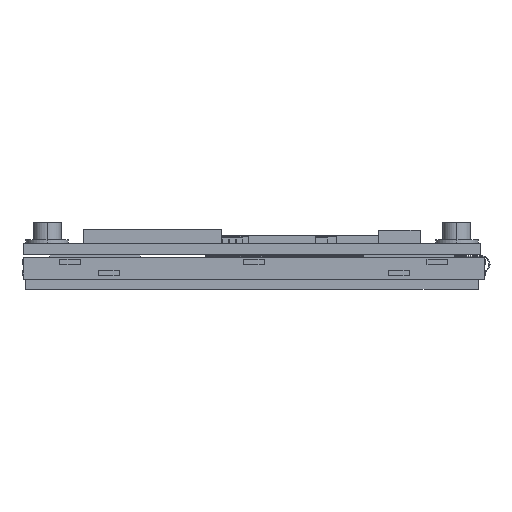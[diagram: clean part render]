
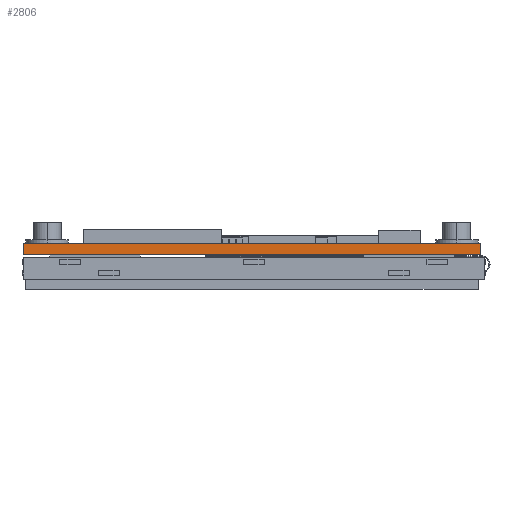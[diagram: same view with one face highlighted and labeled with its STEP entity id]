
A CAD part, left-side view. The second image highlights one B-rep face of the part: STEP entity #2806.
In plain terms, the highlighted planar face has unit normal (-1, 0, 0).
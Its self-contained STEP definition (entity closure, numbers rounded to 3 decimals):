
#1207 = FACE_OUTER_BOUND ( 'NONE', #25943, .T. ) ;
#1308 = VERTEX_POINT ( 'NONE', #17094 ) ;
#1816 = DIRECTION ( 'NONE',  ( 0., -1., 0. ) ) ;
#2080 = CARTESIAN_POINT ( 'NONE',  ( -38.8, 32.2, 0. ) ) ;
#2288 = VECTOR ( 'NONE', #4307, 1000. ) ;
#2806 = ADVANCED_FACE ( 'NONE', ( #1207 ), #13291, .F. ) ;
#4122 = CARTESIAN_POINT ( 'NONE',  ( -38.8, -32.2, 1.6 ) ) ;
#4307 = DIRECTION ( 'NONE',  ( 0., -1., 0. ) ) ;
#5086 = VERTEX_POINT ( 'NONE', #8230 ) ;
#5179 = EDGE_CURVE ( 'NONE', #15486, #5086, #28959, .T. ) ;
#5344 = EDGE_CURVE ( 'NONE', #20042, #15486, #14557, .T. ) ;
#7730 = ORIENTED_EDGE ( 'NONE', *, *, #5344, .T. ) ;
#8230 = CARTESIAN_POINT ( 'NONE',  ( -38.8, -32.2, 0. ) ) ;
#9056 = DIRECTION ( 'NONE',  ( 1., 0., 0. ) ) ;
#12863 = CARTESIAN_POINT ( 'NONE',  ( -38.8, 32.2, 1.6 ) ) ;
#13291 = PLANE ( 'NONE',  #26381 ) ;
#13446 = DIRECTION ( 'NONE',  ( 0., 0., -1. ) ) ;
#13737 = EDGE_CURVE ( 'NONE', #1308, #5086, #19710, .T. ) ;
#13965 = ORIENTED_EDGE ( 'NONE', *, *, #13737, .F. ) ;
#14557 = LINE ( 'NONE', #24928, #20505 ) ;
#15155 = VECTOR ( 'NONE', #26107, 1000. ) ;
#15486 = VERTEX_POINT ( 'NONE', #26349 ) ;
#15652 = CARTESIAN_POINT ( 'NONE',  ( -38.8, 32.2, 1.6 ) ) ;
#17094 = CARTESIAN_POINT ( 'NONE',  ( -38.8, -32.2, 1.6 ) ) ;
#18088 = CARTESIAN_POINT ( 'NONE',  ( -38.8, 32.2, 1.6 ) ) ;
#19710 = LINE ( 'NONE', #4122, #15155 ) ;
#20042 = VERTEX_POINT ( 'NONE', #18088 ) ;
#20505 = VECTOR ( 'NONE', #13446, 1000. ) ;
#22269 = ORIENTED_EDGE ( 'NONE', *, *, #5179, .T. ) ;
#23112 = ORIENTED_EDGE ( 'NONE', *, *, #25594, .F. ) ;
#24761 = DIRECTION ( 'NONE',  ( 0., 1., 0. ) ) ;
#24928 = CARTESIAN_POINT ( 'NONE',  ( -38.8, 32.2, 1.6 ) ) ;
#25076 = LINE ( 'NONE', #12863, #28927 ) ;
#25594 = EDGE_CURVE ( 'NONE', #20042, #1308, #25076, .T. ) ;
#25943 = EDGE_LOOP ( 'NONE', ( #22269, #13965, #23112, #7730 ) ) ;
#26107 = DIRECTION ( 'NONE',  ( 0., 0., -1. ) ) ;
#26349 = CARTESIAN_POINT ( 'NONE',  ( -38.8, 32.2, 0. ) ) ;
#26381 = AXIS2_PLACEMENT_3D ( 'NONE', #15652, #9056, #24761 ) ;
#28927 = VECTOR ( 'NONE', #1816, 1000. ) ;
#28959 = LINE ( 'NONE', #2080, #2288 ) ;
